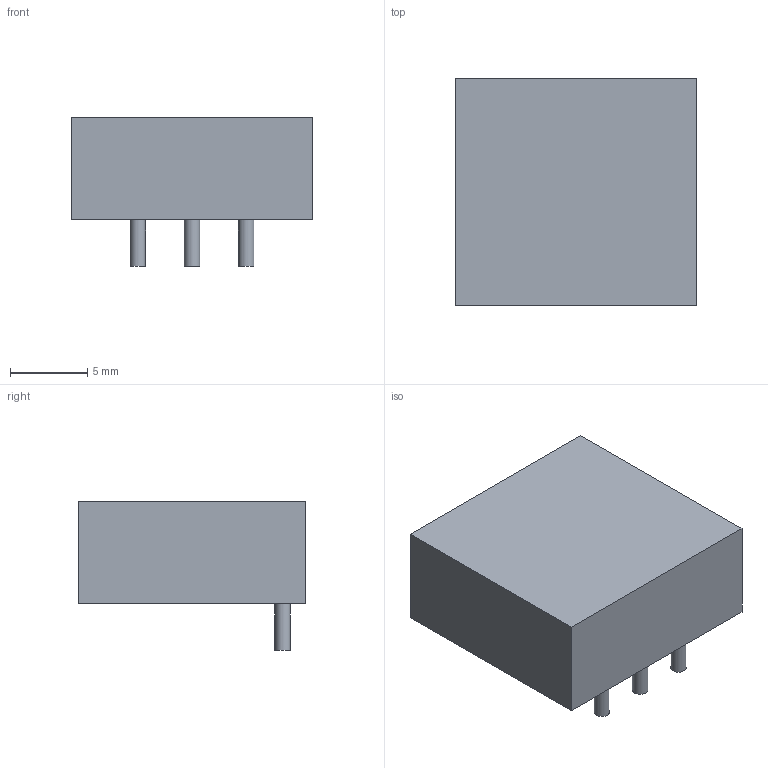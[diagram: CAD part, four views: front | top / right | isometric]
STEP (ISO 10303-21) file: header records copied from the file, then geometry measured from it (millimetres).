
FILE_DESCRIPTION(('Open CASCADE Model'),'2;1');
FILE_NAME('Open CASCADE Shape Model','2026-10-16T12:07:44',('Author'),( 'Open CASCADE'),'Open CASCADE STEP processor 8.0','build123d', 'Unknown');
FILE_SCHEMA(('AUTOMOTIVE_DESIGN { 1 0 10303 214 1 1 1 1 }'));
Length unit declared in the file: millimetre
Products named in the file (1): COMPOUND
Bounding box: 15.6 x 14.7 x 9.6 mm (x, y, z)
Volume: 1305.2 mm3; surface area: 1008.3 mm2
Topology: 1 solids, 1 shells, 17 faces, 33 edges, 22 vertices
Faces by surface type: plane 14, cylinder 3
Full cylindrical faces by diameter (mm): 1 x3
Entity records: 864 total; most frequent: CARTESIAN_POINT 147, DIRECTION 133, LINE 79, VECTOR 79, ORIENTED_EDGE 66, PCURVE 66, DEFINITIONAL_REPRESENTATION 66, EDGE_CURVE 33
